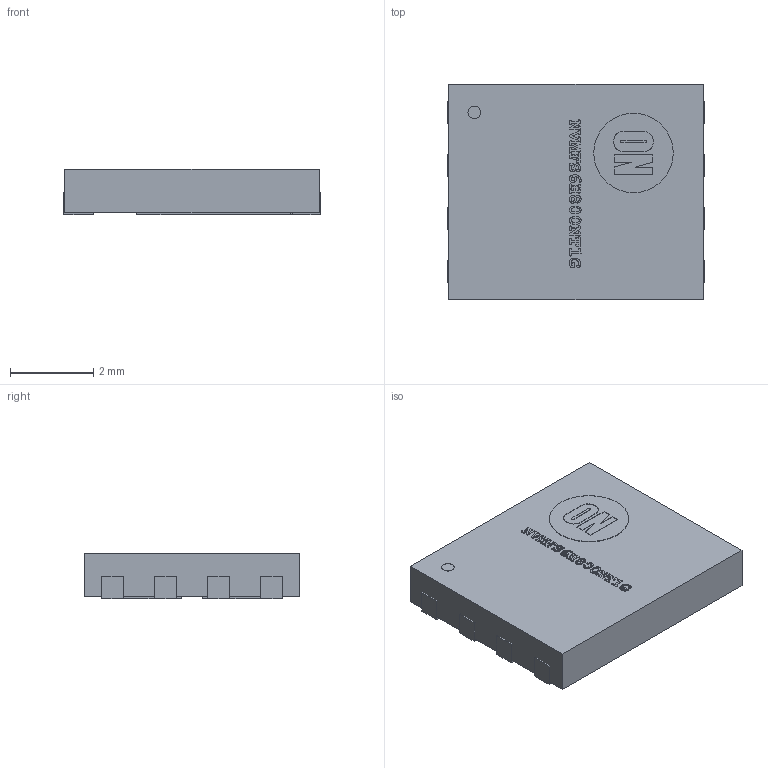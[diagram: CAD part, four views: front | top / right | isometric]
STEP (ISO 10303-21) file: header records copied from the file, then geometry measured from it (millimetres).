
FILE_DESCRIPTION(/* description */ ('STEP AP214'),/* implementation_level */ '2;1');
FILE_NAME(/* name */ 'METUPowerLab_Transistors_MOSFETs_8-PowerTDFN(5x6mm)Dual_NVMFS6H800NT1G.step',/* time_stamp */ '2026-04-27T22:10:08+03:00',/* author */ (''),/* organization */ (''),/* preprocessor_version */ 'ST-DEVELOPER v20.1',/* originating_system */ 'Autodesk Translation Framework v14.24.0.0',/* authorisation */ '');
FILE_SCHEMA (('AUTOMOTIVE_DESIGN { 1 0 10303 214 3 1 1 }'));
Length unit declared in the file: millimetre
Products named in the file (1): product
Bounding box: 6.15 x 5.16 x 1.1 mm (x, y, z)
Volume: 35 mm3; surface area: 132.6 mm2
Topology: 12 solids, 12 shells, 585 faces, 1620 edges, 1080 vertices
Faces by surface type: bspline 364, plane 219, cylinder 2
Full cylindrical faces by diameter (mm): 0.305 x1, 1.905 x1
Entity records: 21849 total; most frequent: CARTESIAN_POINT 9358, ORIENTED_EDGE 3240, EDGE_CURVE 1620, DIRECTION 1340, VERTEX_POINT 1080, LINE 888, VECTOR 888, B_SPLINE_CURVE_WITH_KNOTS 680
